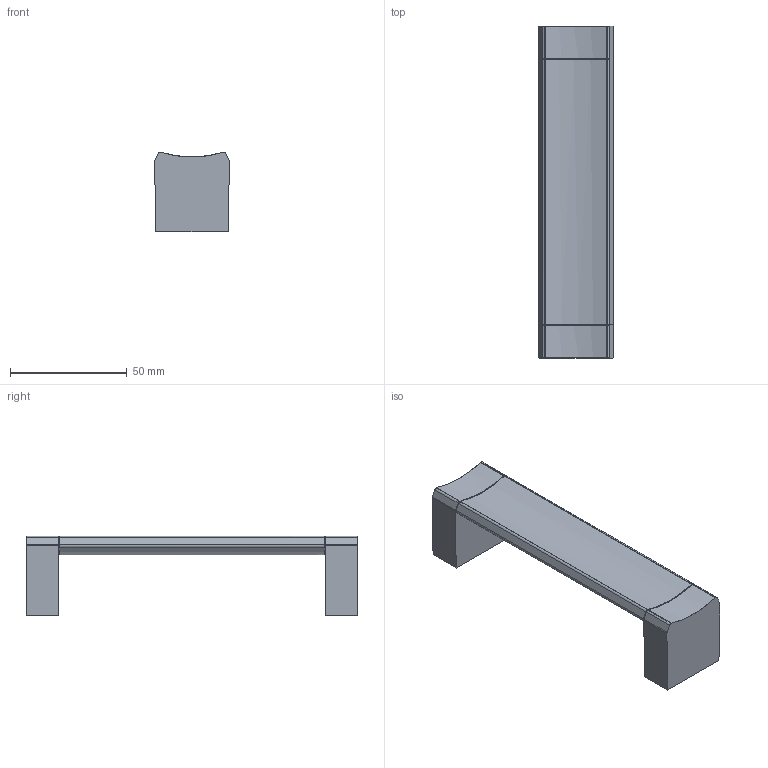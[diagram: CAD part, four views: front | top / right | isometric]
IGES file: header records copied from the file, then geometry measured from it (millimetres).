
Start section: C
Global section: file name: 0093-140.igs; native system: By Siemens PLM Incorporated; preprocessor: XPlus GENERIC/IGES 16.0.42; author: Author; organization: Title; date: 20260104.152342; units: millimetre
Bounding box: 32 x 142 x 34 mm (x, y, z)
Surface area: 22339.1 mm2 (no closed solid volume)
Topology: 0 solids, 0 shells, 92 faces, 504 edges, 504 vertices
Faces by surface type: bspline 92
